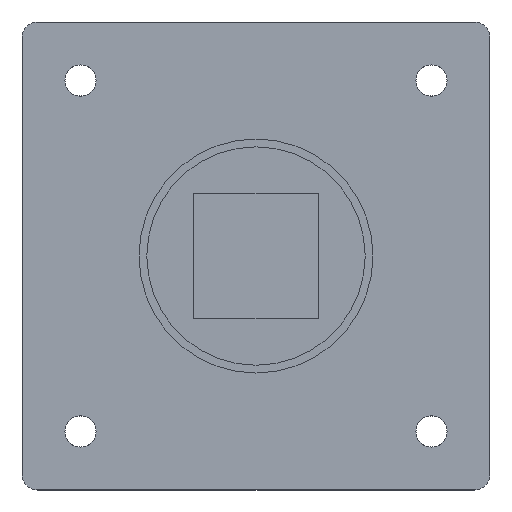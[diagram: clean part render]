
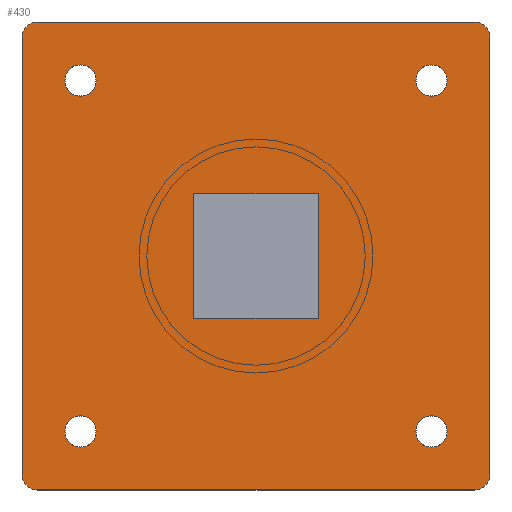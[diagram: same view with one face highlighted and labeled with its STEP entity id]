
A CAD part, top view. The second image highlights one B-rep face of the part: STEP entity #430.
In plain terms, the highlighted planar face has unit normal (0, 0, 1).
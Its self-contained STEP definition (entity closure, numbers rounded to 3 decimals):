
#208 = VERTEX_POINT( '', #577 );
#210 = EDGE_CURVE( '', #230, #384, #579, .T. );
#226 = EDGE_CURVE( '', #254, #230, #597, .T. );
#230 = VERTEX_POINT( '', #602 );
#236 = EDGE_CURVE( '', #292, #280, #608, .T. );
#248 = EDGE_CURVE( '', #372, #296, #622, .T. );
#250 = EDGE_CURVE( '', #274, #254, #624, .T. );
#252 = VERTEX_POINT( '', #626 );
#254 = VERTEX_POINT( '', #628 );
#266 = EDGE_CURVE( '', #312, #274, #641, .T. );
#274 = VERTEX_POINT( '', #651 );
#280 = VERTEX_POINT( '', #658 );
#292 = VERTEX_POINT( '', #673 );
#296 = VERTEX_POINT( '', #677 );
#304 = EDGE_CURVE( '', #336, #312, #685, .T. );
#312 = VERTEX_POINT( '', #695 );
#324 = EDGE_CURVE( '', #356, #336, #707, .T. );
#336 = VERTEX_POINT( '', #720 );
#344 = EDGE_CURVE( '', #380, #356, #728, .T. );
#352 = EDGE_CURVE( '', #434, #476, #738, .T. );
#356 = VERTEX_POINT( '', #742 );
#372 = VERTEX_POINT( '', #759 );
#374 = EDGE_CURVE( '', #384, #380, #761, .T. );
#380 = VERTEX_POINT( '', #768 );
#384 = VERTEX_POINT( '', #772 );
#388 = EDGE_CURVE( '', #208, #252, #777, .T. );
#396 = EDGE_CURVE( '', #476, #434, #785, .T. );
#408 = EDGE_CURVE( '', #296, #372, #798, .T. );
#418 = EDGE_CURVE( '', #466, #542, #810, .T. );
#426 = EDGE_CURVE( '', #280, #292, #819, .T. );
#430 = ADVANCED_FACE( '', ( #823, #824, #825, #826, #827, #828 ), #829, .T. );
#434 = VERTEX_POINT( '', #833 );
#454 = EDGE_CURVE( '', #494, #466, #855, .T. );
#466 = VERTEX_POINT( '', #868 );
#476 = VERTEX_POINT( '', #885 );
#478 = EDGE_CURVE( '', #546, #494, #887, .T. );
#494 = VERTEX_POINT( '', #904 );
#500 = EDGE_CURVE( '', #252, #208, #913, .T. );
#532 = EDGE_CURVE( '', #542, #546, #948, .T. );
#542 = VERTEX_POINT( '', #958 );
#546 = VERTEX_POINT( '', #962 );
#577 = CARTESIAN_POINT( '', ( 24.5, -22.5, 0. ) );
#579 = CIRCLE( '', #987, 2. );
#597 = LINE( '', #1011, #1012 );
#602 = CARTESIAN_POINT( '', ( -28., -30., 0. ) );
#608 = CIRCLE( '', #1026, 2. );
#622 = CIRCLE( '', #1042, 2. );
#624 = CIRCLE( '', #1045, 2. );
#626 = CARTESIAN_POINT( '', ( 20.5, -22.5, 0. ) );
#628 = CARTESIAN_POINT( '', ( 28., -30., 0. ) );
#641 = LINE( '', #1069, #1070 );
#651 = CARTESIAN_POINT( '', ( 30., -28., 0. ) );
#658 = CARTESIAN_POINT( '', ( -20.5, 22.5, 0. ) );
#673 = CARTESIAN_POINT( '', ( -24.5, 22.5, 0. ) );
#677 = CARTESIAN_POINT( '', ( -20.5, -22.5, 0. ) );
#685 = CIRCLE( '', #1123, 2. );
#695 = CARTESIAN_POINT( '', ( 30., 28., 0. ) );
#707 = LINE( '', #1151, #1152 );
#720 = CARTESIAN_POINT( '', ( 28., 30., 0. ) );
#728 = CIRCLE( '', #1180, 2. );
#738 = CIRCLE( '', #1193, 2. );
#742 = CARTESIAN_POINT( '', ( -28., 30., 0. ) );
#759 = CARTESIAN_POINT( '', ( -24.5, -22.5, 0. ) );
#761 = LINE( '', #1225, #1226 );
#768 = CARTESIAN_POINT( '', ( -30., 28., 0. ) );
#772 = CARTESIAN_POINT( '', ( -30., -28., 0. ) );
#777 = CIRCLE( '', #1245, 2. );
#785 = CIRCLE( '', #1258, 2. );
#798 = CIRCLE( '', #1275, 2. );
#810 = LINE( '', #1289, #1290 );
#819 = CIRCLE( '', #1304, 2. );
#823 = FACE_BOUND( '', #1309, .T. );
#824 = FACE_OUTER_BOUND( '', #1310, .T. );
#825 = FACE_BOUND( '', #1311, .T. );
#826 = FACE_BOUND( '', #1312, .T. );
#827 = FACE_BOUND( '', #1313, .T. );
#828 = FACE_BOUND( '', #1314, .T. );
#829 = PLANE( '', #1315 );
#833 = CARTESIAN_POINT( '', ( 20.5, 22.5, 0. ) );
#855 = LINE( '', #1347, #1348 );
#868 = CARTESIAN_POINT( '', ( 8., 8., 0. ) );
#885 = CARTESIAN_POINT( '', ( 24.5, 22.5, 0. ) );
#887 = LINE( '', #1390, #1391 );
#904 = CARTESIAN_POINT( '', ( -8., 8., 0. ) );
#913 = CIRCLE( '', #1422, 2. );
#948 = LINE( '', #1473, #1474 );
#958 = CARTESIAN_POINT( '', ( 8., -8., 0. ) );
#962 = CARTESIAN_POINT( '', ( -8., -8., 0. ) );
#987 = AXIS2_PLACEMENT_3D( '', #1511, #1512, #1513 );
#1011 = CARTESIAN_POINT( '', ( -28., -30., 0. ) );
#1012 = VECTOR( '', #1535, 1. );
#1026 = AXIS2_PLACEMENT_3D( '', #1545, #1546, #1547 );
#1042 = AXIS2_PLACEMENT_3D( '', #1567, #1568, #1569 );
#1045 = AXIS2_PLACEMENT_3D( '', #1570, #1571, #1572 );
#1069 = CARTESIAN_POINT( '', ( 30., -28., 0. ) );
#1070 = VECTOR( '', #1584, 1. );
#1123 = AXIS2_PLACEMENT_3D( '', #1628, #1629, #1630 );
#1151 = CARTESIAN_POINT( '', ( 28., 30., 0. ) );
#1152 = VECTOR( '', #1652, 1. );
#1180 = AXIS2_PLACEMENT_3D( '', #1674, #1675, #1676 );
#1193 = AXIS2_PLACEMENT_3D( '', #1692, #1693, #1694 );
#1225 = CARTESIAN_POINT( '', ( -30., 28., 0. ) );
#1226 = VECTOR( '', #1712, 1. );
#1245 = AXIS2_PLACEMENT_3D( '', #1735, #1736, #1737 );
#1258 = AXIS2_PLACEMENT_3D( '', #1740, #1741, #1742 );
#1275 = AXIS2_PLACEMENT_3D( '', #1753, #1754, #1755 );
#1289 = CARTESIAN_POINT( '', ( 8., 4., 0. ) );
#1290 = VECTOR( '', #1775, 1. );
#1304 = AXIS2_PLACEMENT_3D( '', #1786, #1787, #1788 );
#1309 = EDGE_LOOP( '', ( #1793, #1794, #1795, #1796 ) );
#1310 = EDGE_LOOP( '', ( #1797, #1798, #1799, #1800, #1801, #1802, #1803, #1804 ) );
#1311 = EDGE_LOOP( '', ( #1805, #1806 ) );
#1312 = EDGE_LOOP( '', ( #1807, #1808 ) );
#1313 = EDGE_LOOP( '', ( #1809, #1810 ) );
#1314 = EDGE_LOOP( '', ( #1811, #1812 ) );
#1315 = AXIS2_PLACEMENT_3D( '', #1813, #1814, #1815 );
#1347 = CARTESIAN_POINT( '', ( -4., 8., 0. ) );
#1348 = VECTOR( '', #1837, 1. );
#1390 = CARTESIAN_POINT( '', ( -8., -4., 0. ) );
#1391 = VECTOR( '', #1883, 1. );
#1422 = AXIS2_PLACEMENT_3D( '', #1915, #1916, #1917 );
#1473 = CARTESIAN_POINT( '', ( 4., -8., 0. ) );
#1474 = VECTOR( '', #1957, 1. );
#1511 = CARTESIAN_POINT( '', ( -28., -28., 0. ) );
#1512 = DIRECTION( '', ( 0., 0., -1. ) );
#1513 = DIRECTION( '', ( -1., 0., 0. ) );
#1535 = DIRECTION( '', ( -1., 0., 0. ) );
#1545 = CARTESIAN_POINT( '', ( -22.5, 22.5, 0. ) );
#1546 = DIRECTION( '', ( 0., 0., 1. ) );
#1547 = DIRECTION( '', ( 1., 0., 0. ) );
#1567 = CARTESIAN_POINT( '', ( -22.5, -22.5, 0. ) );
#1568 = DIRECTION( '', ( 0., 0., 1. ) );
#1569 = DIRECTION( '', ( 1., 0., 0. ) );
#1570 = CARTESIAN_POINT( '', ( 28., -28., 0. ) );
#1571 = DIRECTION( '', ( 0., 0., -1. ) );
#1572 = DIRECTION( '', ( 0., -1., 0. ) );
#1584 = DIRECTION( '', ( 0., -1., 0. ) );
#1628 = CARTESIAN_POINT( '', ( 28., 28., 0. ) );
#1629 = DIRECTION( '', ( 0., 0., -1. ) );
#1630 = DIRECTION( '', ( 1., 0., 0. ) );
#1652 = DIRECTION( '', ( 1., 0., 0. ) );
#1674 = CARTESIAN_POINT( '', ( -28., 28., 0. ) );
#1675 = DIRECTION( '', ( 0., 0., -1. ) );
#1676 = DIRECTION( '', ( 0., 1., 0. ) );
#1692 = CARTESIAN_POINT( '', ( 22.5, 22.5, 0. ) );
#1693 = DIRECTION( '', ( 0., 0., 1. ) );
#1694 = DIRECTION( '', ( 1., 0., 0. ) );
#1712 = DIRECTION( '', ( 0., 1., 0. ) );
#1735 = CARTESIAN_POINT( '', ( 22.5, -22.5, 0. ) );
#1736 = DIRECTION( '', ( 0., 0., 1. ) );
#1737 = DIRECTION( '', ( 1., 0., 0. ) );
#1740 = CARTESIAN_POINT( '', ( 22.5, 22.5, 0. ) );
#1741 = DIRECTION( '', ( 0., 0., 1. ) );
#1742 = DIRECTION( '', ( 1., 0., 0. ) );
#1753 = CARTESIAN_POINT( '', ( -22.5, -22.5, 0. ) );
#1754 = DIRECTION( '', ( 0., 0., 1. ) );
#1755 = DIRECTION( '', ( 1., 0., 0. ) );
#1775 = DIRECTION( '', ( 0., -1., 0. ) );
#1786 = CARTESIAN_POINT( '', ( -22.5, 22.5, 0. ) );
#1787 = DIRECTION( '', ( 0., 0., 1. ) );
#1788 = DIRECTION( '', ( 1., 0., 0. ) );
#1793 = ORIENTED_EDGE( '', *, *, #454, .T. );
#1794 = ORIENTED_EDGE( '', *, *, #418, .T. );
#1795 = ORIENTED_EDGE( '', *, *, #532, .T. );
#1796 = ORIENTED_EDGE( '', *, *, #478, .T. );
#1797 = ORIENTED_EDGE( '', *, *, #374, .F. );
#1798 = ORIENTED_EDGE( '', *, *, #210, .F. );
#1799 = ORIENTED_EDGE( '', *, *, #226, .F. );
#1800 = ORIENTED_EDGE( '', *, *, #250, .F. );
#1801 = ORIENTED_EDGE( '', *, *, #266, .F. );
#1802 = ORIENTED_EDGE( '', *, *, #304, .F. );
#1803 = ORIENTED_EDGE( '', *, *, #324, .F. );
#1804 = ORIENTED_EDGE( '', *, *, #344, .F. );
#1805 = ORIENTED_EDGE( '', *, *, #388, .F. );
#1806 = ORIENTED_EDGE( '', *, *, #500, .F. );
#1807 = ORIENTED_EDGE( '', *, *, #396, .F. );
#1808 = ORIENTED_EDGE( '', *, *, #352, .F. );
#1809 = ORIENTED_EDGE( '', *, *, #408, .F. );
#1810 = ORIENTED_EDGE( '', *, *, #248, .F. );
#1811 = ORIENTED_EDGE( '', *, *, #426, .F. );
#1812 = ORIENTED_EDGE( '', *, *, #236, .F. );
#1813 = CARTESIAN_POINT( '', ( 0., 0., 0. ) );
#1814 = DIRECTION( '', ( 0., 0., 1. ) );
#1815 = DIRECTION( '', ( 1., 0., 0. ) );
#1837 = DIRECTION( '', ( 1., 0., 0. ) );
#1883 = DIRECTION( '', ( 0., 1., 0. ) );
#1915 = CARTESIAN_POINT( '', ( 22.5, -22.5, 0. ) );
#1916 = DIRECTION( '', ( 0., 0., 1. ) );
#1917 = DIRECTION( '', ( 1., 0., 0. ) );
#1957 = DIRECTION( '', ( -1., 0., 0. ) );
